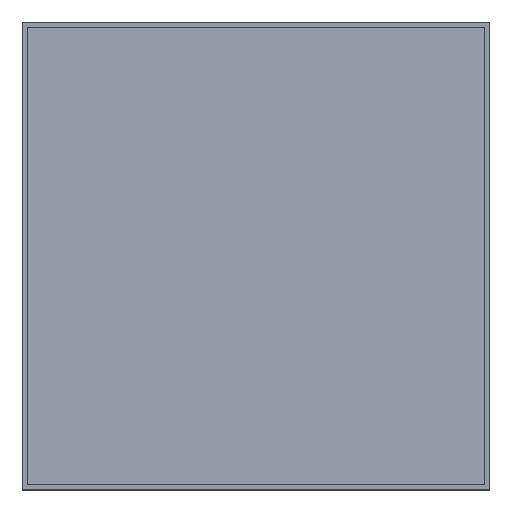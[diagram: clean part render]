
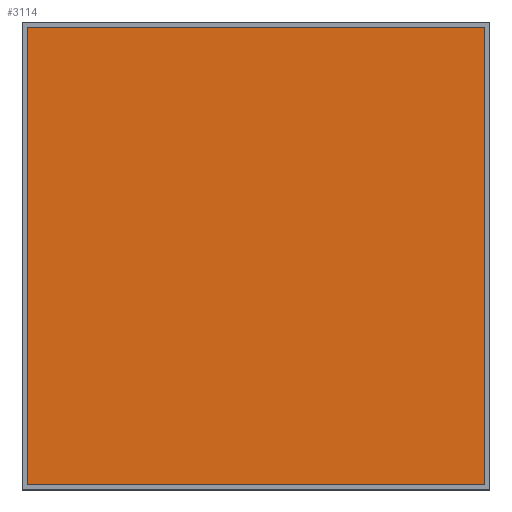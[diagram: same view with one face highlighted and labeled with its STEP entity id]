
A CAD part, top view. The second image highlights one B-rep face of the part: STEP entity #3114.
In plain terms, the highlighted planar face has unit normal (0, 0, 1).
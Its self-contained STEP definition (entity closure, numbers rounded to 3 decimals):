
#2800 = VERTEX_POINT('',#2801);
#2801 = CARTESIAN_POINT('',(42.5,42.5,2.65));
#2808 = PLANE('',#2809);
#2809 = AXIS2_PLACEMENT_3D('',#2810,#2811,#2812);
#2810 = CARTESIAN_POINT('',(42.5,42.5,0.));
#2811 = DIRECTION('',(0.,-1.,0.));
#2812 = DIRECTION('',(-1.,0.,0.));
#2820 = PLANE('',#2821);
#2821 = AXIS2_PLACEMENT_3D('',#2822,#2823,#2824);
#2822 = CARTESIAN_POINT('',(42.5,0.5,0.));
#2823 = DIRECTION('',(-1.,0.,0.));
#2824 = DIRECTION('',(0.,1.,0.));
#2832 = EDGE_CURVE('',#2800,#2833,#2835,.T.);
#2833 = VERTEX_POINT('',#2834);
#2834 = CARTESIAN_POINT('',(0.5,42.5,2.65));
#2835 = SURFACE_CURVE('',#2836,(#2840,#2847),.PCURVE_S1.);
#2836 = LINE('',#2837,#2838);
#2837 = CARTESIAN_POINT('',(42.5,42.5,2.65));
#2838 = VECTOR('',#2839,1.);
#2839 = DIRECTION('',(-1.,0.,0.));
#2840 = PCURVE('',#2808,#2841);
#2841 = DEFINITIONAL_REPRESENTATION('',(#2842),#2846);
#2842 = LINE('',#2843,#2844);
#2843 = CARTESIAN_POINT('',(0.,-2.65));
#2844 = VECTOR('',#2845,1.);
#2845 = DIRECTION('',(1.,0.));
#2846 = ( GEOMETRIC_REPRESENTATION_CONTEXT(2) 
PARAMETRIC_REPRESENTATION_CONTEXT() REPRESENTATION_CONTEXT('2D SPACE',''
  ) );
#2847 = PCURVE('',#2848,#2853);
#2848 = PLANE('',#2849);
#2849 = AXIS2_PLACEMENT_3D('',#2850,#2851,#2852);
#2850 = CARTESIAN_POINT('',(21.5,21.5,2.65));
#2851 = DIRECTION('',(0.,0.,1.));
#2852 = DIRECTION('',(-1.,0.,0.));
#2853 = DEFINITIONAL_REPRESENTATION('',(#2854),#2858);
#2854 = LINE('',#2855,#2856);
#2855 = CARTESIAN_POINT('',(-21.,-21.));
#2856 = VECTOR('',#2857,1.);
#2857 = DIRECTION('',(1.,0.));
#2858 = ( GEOMETRIC_REPRESENTATION_CONTEXT(2) 
PARAMETRIC_REPRESENTATION_CONTEXT() REPRESENTATION_CONTEXT('2D SPACE',''
  ) );
#2876 = PLANE('',#2877);
#2877 = AXIS2_PLACEMENT_3D('',#2878,#2879,#2880);
#2878 = CARTESIAN_POINT('',(0.5,42.5,0.));
#2879 = DIRECTION('',(1.,0.,0.));
#2880 = DIRECTION('',(0.,-1.,0.));
#2918 = EDGE_CURVE('',#2833,#2919,#2921,.T.);
#2919 = VERTEX_POINT('',#2920);
#2920 = CARTESIAN_POINT('',(0.5,0.5,2.65));
#2921 = SURFACE_CURVE('',#2922,(#2926,#2933),.PCURVE_S1.);
#2922 = LINE('',#2923,#2924);
#2923 = CARTESIAN_POINT('',(0.5,42.5,2.65));
#2924 = VECTOR('',#2925,1.);
#2925 = DIRECTION('',(0.,-1.,0.));
#2926 = PCURVE('',#2876,#2927);
#2927 = DEFINITIONAL_REPRESENTATION('',(#2928),#2932);
#2928 = LINE('',#2929,#2930);
#2929 = CARTESIAN_POINT('',(0.,-2.65));
#2930 = VECTOR('',#2931,1.);
#2931 = DIRECTION('',(1.,0.));
#2932 = ( GEOMETRIC_REPRESENTATION_CONTEXT(2) 
PARAMETRIC_REPRESENTATION_CONTEXT() REPRESENTATION_CONTEXT('2D SPACE',''
  ) );
#2933 = PCURVE('',#2848,#2934);
#2934 = DEFINITIONAL_REPRESENTATION('',(#2935),#2939);
#2935 = LINE('',#2936,#2937);
#2936 = CARTESIAN_POINT('',(21.,-21.));
#2937 = VECTOR('',#2938,1.);
#2938 = DIRECTION('',(0.,1.));
#2939 = ( GEOMETRIC_REPRESENTATION_CONTEXT(2) 
PARAMETRIC_REPRESENTATION_CONTEXT() REPRESENTATION_CONTEXT('2D SPACE',''
  ) );
#2957 = PLANE('',#2958);
#2958 = AXIS2_PLACEMENT_3D('',#2959,#2960,#2961);
#2959 = CARTESIAN_POINT('',(0.5,0.5,0.));
#2960 = DIRECTION('',(0.,1.,0.));
#2961 = DIRECTION('',(1.,0.,0.));
#2994 = EDGE_CURVE('',#2919,#2995,#2997,.T.);
#2995 = VERTEX_POINT('',#2996);
#2996 = CARTESIAN_POINT('',(42.5,0.5,2.65));
#2997 = SURFACE_CURVE('',#2998,(#3002,#3009),.PCURVE_S1.);
#2998 = LINE('',#2999,#3000);
#2999 = CARTESIAN_POINT('',(0.5,0.5,2.65));
#3000 = VECTOR('',#3001,1.);
#3001 = DIRECTION('',(1.,0.,0.));
#3002 = PCURVE('',#2957,#3003);
#3003 = DEFINITIONAL_REPRESENTATION('',(#3004),#3008);
#3004 = LINE('',#3005,#3006);
#3005 = CARTESIAN_POINT('',(0.,-2.65));
#3006 = VECTOR('',#3007,1.);
#3007 = DIRECTION('',(1.,0.));
#3008 = ( GEOMETRIC_REPRESENTATION_CONTEXT(2) 
PARAMETRIC_REPRESENTATION_CONTEXT() REPRESENTATION_CONTEXT('2D SPACE',''
  ) );
#3009 = PCURVE('',#2848,#3010);
#3010 = DEFINITIONAL_REPRESENTATION('',(#3011),#3015);
#3011 = LINE('',#3012,#3013);
#3012 = CARTESIAN_POINT('',(21.,21.));
#3013 = VECTOR('',#3014,1.);
#3014 = DIRECTION('',(-1.,0.));
#3015 = ( GEOMETRIC_REPRESENTATION_CONTEXT(2) 
PARAMETRIC_REPRESENTATION_CONTEXT() REPRESENTATION_CONTEXT('2D SPACE',''
  ) );
#3065 = EDGE_CURVE('',#2995,#2800,#3066,.T.);
#3066 = SURFACE_CURVE('',#3067,(#3071,#3078),.PCURVE_S1.);
#3067 = LINE('',#3068,#3069);
#3068 = CARTESIAN_POINT('',(42.5,0.5,2.65));
#3069 = VECTOR('',#3070,1.);
#3070 = DIRECTION('',(0.,1.,0.));
#3071 = PCURVE('',#2820,#3072);
#3072 = DEFINITIONAL_REPRESENTATION('',(#3073),#3077);
#3073 = LINE('',#3074,#3075);
#3074 = CARTESIAN_POINT('',(0.,-2.65));
#3075 = VECTOR('',#3076,1.);
#3076 = DIRECTION('',(1.,0.));
#3077 = ( GEOMETRIC_REPRESENTATION_CONTEXT(2) 
PARAMETRIC_REPRESENTATION_CONTEXT() REPRESENTATION_CONTEXT('2D SPACE',''
  ) );
#3078 = PCURVE('',#2848,#3079);
#3079 = DEFINITIONAL_REPRESENTATION('',(#3080),#3084);
#3080 = LINE('',#3081,#3082);
#3081 = CARTESIAN_POINT('',(-21.,21.));
#3082 = VECTOR('',#3083,1.);
#3083 = DIRECTION('',(0.,-1.));
#3084 = ( GEOMETRIC_REPRESENTATION_CONTEXT(2) 
PARAMETRIC_REPRESENTATION_CONTEXT() REPRESENTATION_CONTEXT('2D SPACE',''
  ) );
#3114 = ADVANCED_FACE('',(#3115),#2848,.T.);
#3115 = FACE_BOUND('',#3116,.T.);
#3116 = EDGE_LOOP('',(#3117,#3118,#3119,#3120));
#3117 = ORIENTED_EDGE('',*,*,#2832,.T.);
#3118 = ORIENTED_EDGE('',*,*,#2918,.T.);
#3119 = ORIENTED_EDGE('',*,*,#2994,.T.);
#3120 = ORIENTED_EDGE('',*,*,#3065,.T.);
